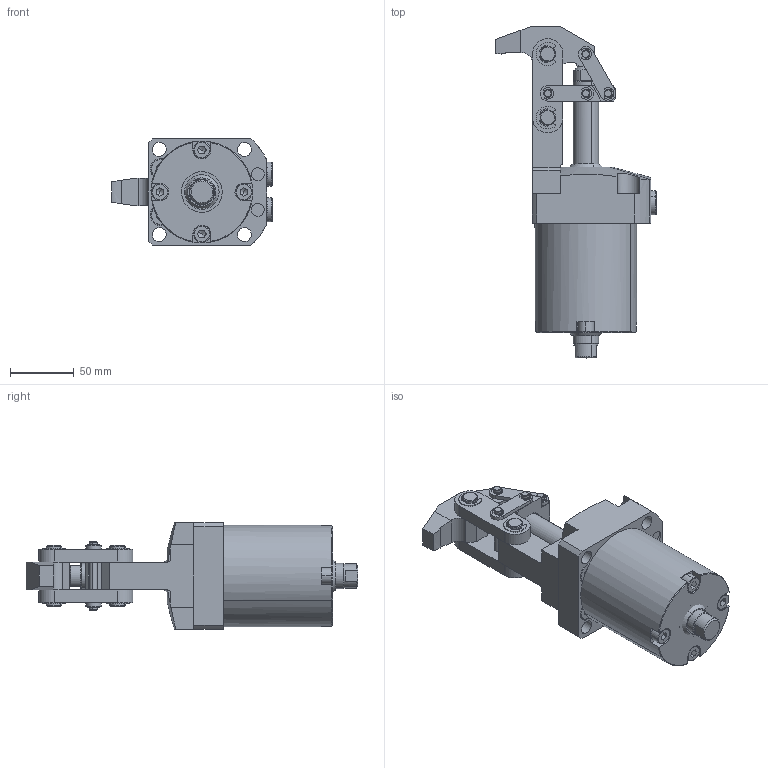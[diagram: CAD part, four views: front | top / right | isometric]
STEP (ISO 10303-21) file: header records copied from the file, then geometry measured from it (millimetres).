
FILE_DESCRIPTION(('CATIA V5 STEP Exchange'),'2;1');
FILE_NAME('\\kjf-102\KJF_TC\Hydraulic_Clamp\Standard\HINGE_CLAMP\MLC-5080G_-\Rev_B\MLC-5080GD_B.stp','2026-03-12T07:31:35+00:00',('none'),('none'),'CATIA Version 5 Release 19 SP 9 (IN-10)','CATIA V5 STEP AP203','none');
FILE_SCHEMA(('CONFIG_CONTROL_DESIGN'));
Length unit declared in the file: millimetre
Products named in the file (1): MLC-5080GD
Assembly tree (40 placements, depth 2):
  MLC-5080GD
    #58
    #1353
    #2691
    #4582
    #5371
    #6409
    #7429  x2
    #7941  x2
    #8425  x2
    #9098  x2
    #9582  x2
    #10094  x2
    #10578  x2
    #11984  x2
    #12927  x4
    #13864  x4
    #14587  x8
    #15370  x2
Bounding box: 126.5 x 261 x 84 mm (x, y, z)
Volume: 745872 mm3; surface area: 176538.2 mm2
Topology: 40 solids, 40 shells, 1058 faces, 2543 edges, 1622 vertices
Faces by surface type: cylinder 465, plane 354, cone 191, torus 42, bspline 4, extrusion 2
Entity records: 15620 total; most frequent: CARTESIAN_POINT 3429, ORIENTED_EDGE 2518, DIRECTION 2094, EDGE_CURVE 1259, AXIS2_PLACEMENT_3D 1046, VERTEX_POINT 797, EDGE_LOOP 624, VECTOR 590
